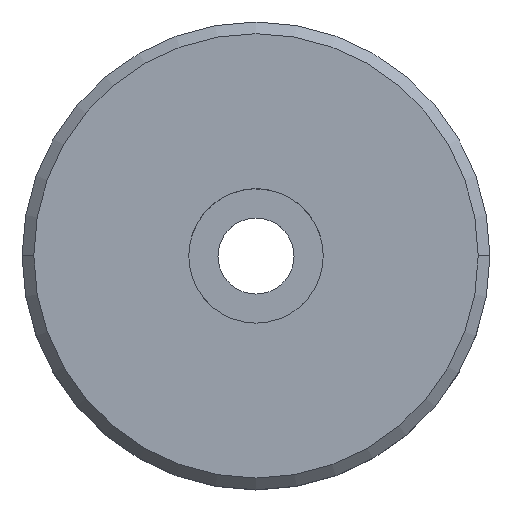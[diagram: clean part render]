
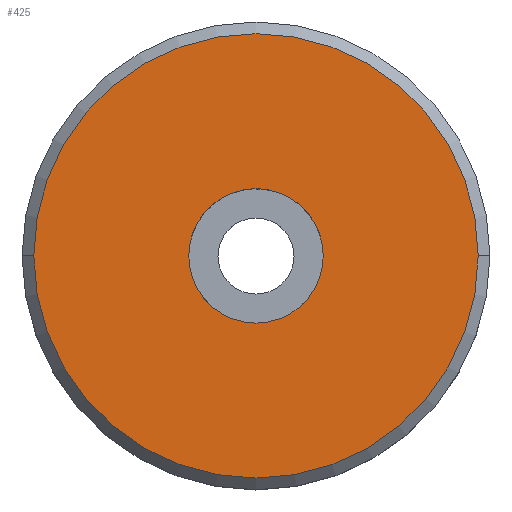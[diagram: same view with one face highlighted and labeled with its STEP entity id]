
A CAD part, top view. The second image highlights one B-rep face of the part: STEP entity #425.
In plain terms, the highlighted planar face has unit normal (0, 0, 1).
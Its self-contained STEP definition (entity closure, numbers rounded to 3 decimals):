
#311=CARTESIAN_POINT('Vertex',(-11.5,0.,25.)) ;
#318=CARTESIAN_POINT('Vertex',(11.5,0.,25.)) ;
#321=CARTESIAN_POINT('Axis2P3D Location',(0.,0.,25.)) ;
#338=CARTESIAN_POINT('Axis2P3D Location',(0.,0.,25.)) ;
#398=CARTESIAN_POINT('Axis2P3D Location',(0.,0.,25.)) ;
#403=CARTESIAN_POINT('Axis2P3D Location',(0.,0.,25.)) ;
#407=CARTESIAN_POINT('Vertex',(-38.,0.,25.)) ;
#409=CARTESIAN_POINT('Vertex',(38.,0.,25.)) ;
#412=CARTESIAN_POINT('Axis2P3D Location',(0.,0.,25.)) ;
#322=DIRECTION('Axis2P3D Direction',(0.,-0.,1.)) ;
#339=DIRECTION('Axis2P3D Direction',(0.,-0.,1.)) ;
#399=DIRECTION('Axis2P3D Direction',(0.,0.,1.)) ;
#400=DIRECTION('Axis2P3D XDirection',(1.,0.,-0.)) ;
#404=DIRECTION('Axis2P3D Direction',(0.,0.,1.)) ;
#413=DIRECTION('Axis2P3D Direction',(0.,0.,1.)) ;
#323=AXIS2_PLACEMENT_3D('Circle Axis2P3D',#321,#322,$) ;
#340=AXIS2_PLACEMENT_3D('Circle Axis2P3D',#338,#339,$) ;
#401=AXIS2_PLACEMENT_3D('Plane Axis2P3D',#398,#399,#400) ;
#405=AXIS2_PLACEMENT_3D('Circle Axis2P3D',#403,#404,$) ;
#414=AXIS2_PLACEMENT_3D('Circle Axis2P3D',#412,#413,$) ;
#418=ORIENTED_EDGE('',*,*,#411,.T.) ;
#419=ORIENTED_EDGE('',*,*,#416,.T.) ;
#422=ORIENTED_EDGE('',*,*,#325,.F.) ;
#423=ORIENTED_EDGE('',*,*,#342,.F.) ;
#424=FACE_BOUND('',#421,.T.) ;
#425=ADVANCED_FACE('Foro lamato per Vite M12 a testa cilindrica-1',(#420,#424),#402,.T.) ;
#324=CIRCLE('generated circle',#323,11.5) ;
#341=CIRCLE('generated circle',#340,11.5) ;
#406=CIRCLE('generated circle',#405,38.) ;
#415=CIRCLE('generated circle',#414,38.) ;
#325=EDGE_CURVE('',#319,#312,#324,.T.) ;
#342=EDGE_CURVE('',#312,#319,#341,.T.) ;
#411=EDGE_CURVE('',#408,#410,#406,.T.) ;
#416=EDGE_CURVE('',#410,#408,#415,.T.) ;
#417=EDGE_LOOP('',(#418,#419)) ;
#421=EDGE_LOOP('',(#422,#423)) ;
#420=FACE_OUTER_BOUND('',#417,.T.) ;
#402=PLANE('Plane',#401) ;
#312=VERTEX_POINT('',#311) ;
#319=VERTEX_POINT('',#318) ;
#408=VERTEX_POINT('',#407) ;
#410=VERTEX_POINT('',#409) ;
